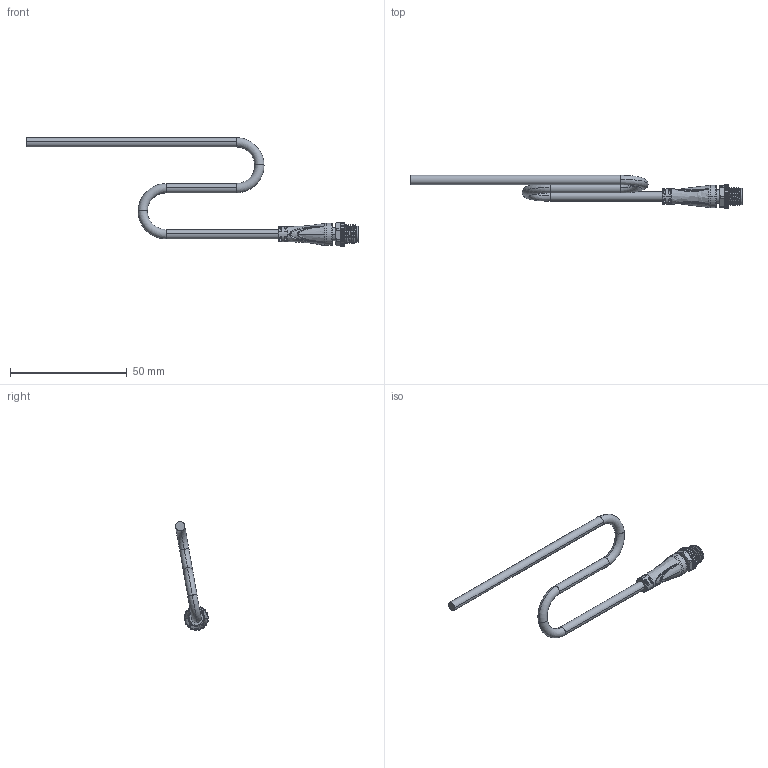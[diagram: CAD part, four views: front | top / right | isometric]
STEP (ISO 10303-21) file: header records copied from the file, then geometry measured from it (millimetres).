
FILE_DESCRIPTION (( 'STEP AP214' ), '1' );
FILE_NAME ('M8眻芛4P鼠傷 .STEP', '2025-09-24T01:37:37', ( 'Windows User' ), ( 'P R C' ), 'SwSTEP 2.0', 'SolidWorks 2023', '' );
FILE_SCHEMA (( 'AUTOMOTIVE_DESIGN' ));
Length unit declared in the file: millimetre
Products named in the file (6): SD1705298-M8公端插针-A0; SD1705296-M8-4P公端插座-A0; M8直头4P公端 ; M8-0°包胶_φ4; 导线_φ4.0; SD1100823-M8滚花螺栓（外螺纹对边9）-A0
Assembly tree (8 placements, depth 2):
  M8直头4P公端 
    M8-0°包胶_φ4
    SD1705298-M8公端插针-A0  x4
    导线_φ4.0
    SD1100823-M8滚花螺栓（外螺纹对边9）-A0
    SD1705296-M8-4P公端插座-A0
Bounding box: 142.25 x 14.17 x 46.59 mm (x, y, z)
Volume: 4489.7 mm3; surface area: 5692.7 mm2
Topology: 16 solids, 16 shells, 1431 faces, 3635 edges, 2241 vertices
Faces by surface type: plane 578, cylinder 392, cone 212, bspline 148, torus 77, sphere 24
Entity records: 33491 total; most frequent: CARTESIAN_POINT 14188, ORIENTED_EDGE 4388, DIRECTION 3522, EDGE_CURVE 2194, VERTEX_POINT 1393, AXIS2_PLACEMENT_3D 1330, EDGE_LOOP 875, VECTOR 862
